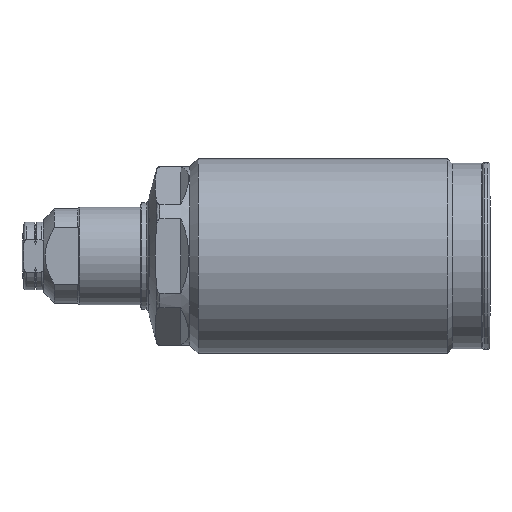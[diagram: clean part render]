
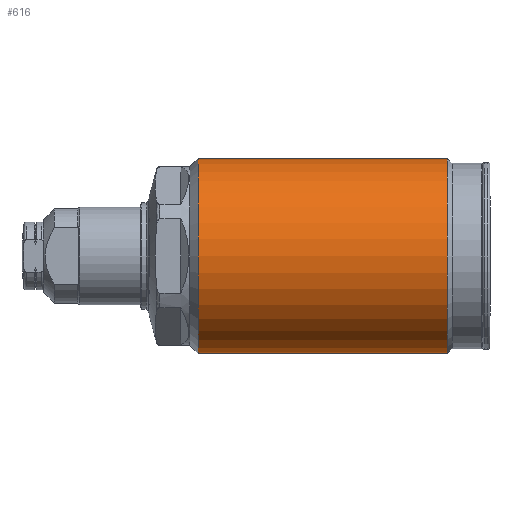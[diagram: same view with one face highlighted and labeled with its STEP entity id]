
A CAD part, left-side view. The second image highlights one B-rep face of the part: STEP entity #616.
In plain terms, the highlighted cylindrical face has radius 18 mm (diameter 36 mm), a partial arc.
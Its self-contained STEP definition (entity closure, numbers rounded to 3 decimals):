
#325=CYLINDRICAL_SURFACE('',#2653,18.);
#376=LINE('',#4026,#467);
#377=LINE('',#4030,#468);
#467=VECTOR('',#3071,1.);
#468=VECTOR('',#3074,1.);
#616=ADVANCED_FACE('',(#801),#325,.T.);
#801=FACE_OUTER_BOUND('',#954,.T.);
#954=EDGE_LOOP('',(#1430,#1431,#1432,#1433));
#1430=ORIENTED_EDGE('',*,*,#2024,.T.);
#1431=ORIENTED_EDGE('',*,*,#2114,.T.);
#1432=ORIENTED_EDGE('',*,*,#2026,.F.);
#1433=ORIENTED_EDGE('',*,*,#2113,.F.);
#1775=VERTEX_POINT('',#4021);
#1776=VERTEX_POINT('',#4023);
#1777=VERTEX_POINT('',#4027);
#1778=VERTEX_POINT('',#4029);
#2024=EDGE_CURVE('',#1777,#1775,#376,.T.);
#2026=EDGE_CURVE('',#1778,#1776,#377,.T.);
#2113=EDGE_CURVE('',#1777,#1778,#2359,.T.);
#2114=EDGE_CURVE('',#1775,#1776,#2360,.T.);
#2359=CIRCLE('',#2650,18.);
#2360=CIRCLE('',#2652,18.);
#2650=AXIS2_PLACEMENT_3D('',#4374,#3293,#3294);
#2652=AXIS2_PLACEMENT_3D('',#4376,#3297,#3298);
#2653=AXIS2_PLACEMENT_3D('',#4377,#3299,#3300);
#3071=DIRECTION('',(0.,1.,0.));
#3074=DIRECTION('',(0.,1.,0.));
#3293=DIRECTION('',(0.,-1.,0.));
#3294=DIRECTION('',(0.,0.,-1.));
#3297=DIRECTION('',(0.,-1.,0.));
#3298=DIRECTION('',(0.,0.,-1.));
#3299=DIRECTION('',(0.,-1.,0.));
#3300=DIRECTION('',(0.,0.,1.));
#4021=CARTESIAN_POINT('',(0.,52.6,18.));
#4023=CARTESIAN_POINT('',(0.,52.6,-18.));
#4026=CARTESIAN_POINT('',(0.,0.,18.));
#4027=CARTESIAN_POINT('',(0.,6.6,18.));
#4029=CARTESIAN_POINT('',(0.,6.6,-18.));
#4030=CARTESIAN_POINT('',(0.,0.,-18.));
#4374=CARTESIAN_POINT('',(0.,6.6,0.));
#4376=CARTESIAN_POINT('',(0.,52.6,0.));
#4377=CARTESIAN_POINT('',(0.,0.,0.));
